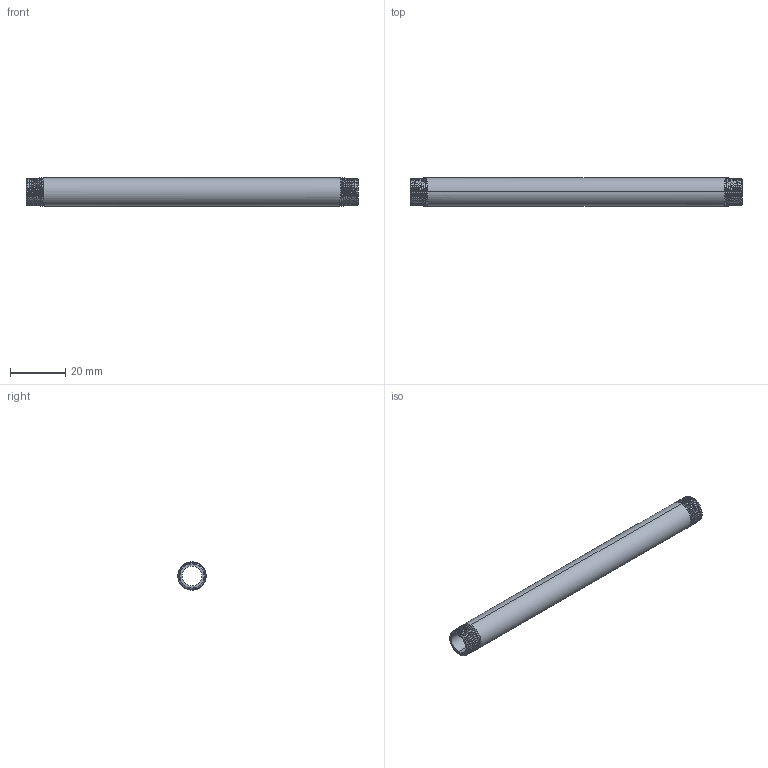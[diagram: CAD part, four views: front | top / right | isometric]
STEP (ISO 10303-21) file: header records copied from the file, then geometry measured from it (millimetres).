
FILE_DESCRIPTION (( 'STEP AP203' ), '1' );
FILE_NAME ('3D_R210_1-8x120_17185800.STEP', '2024-08-16T13:42:12', ( '' ), ( '' ), 'SwSTEP 2.0', 'SolidWorks 2024', '' );
FILE_SCHEMA (( 'CONFIG_CONTROL_DESIGN' ));
Length unit declared in the file: millimetre
Products named in the file (1): 3D_R210_1-8x120_17185800
Bounding box: 120 x 10.2 x 10.2 mm (x, y, z)
Volume: 4833 mm3; surface area: 6773 mm2
Topology: 1 solids, 1 shells, 54 faces, 150 edges, 98 vertices
Faces by surface type: cone 40, bspline 6, cylinder 4, plane 4
Entity records: 6878 total; most frequent: CARTESIAN_POINT 5622, ORIENTED_EDGE 300, DIRECTION 166, EDGE_CURVE 150, VERTEX_POINT 98, B_SPLINE_CURVE_WITH_KNOTS 86, AXIS2_PLACEMENT_3D 61, EDGE_LOOP 56
